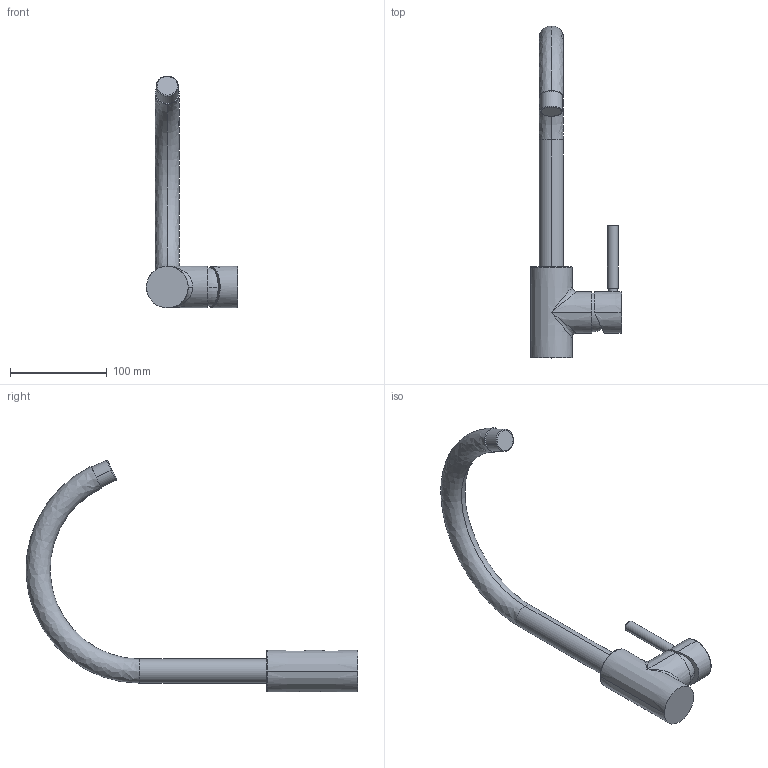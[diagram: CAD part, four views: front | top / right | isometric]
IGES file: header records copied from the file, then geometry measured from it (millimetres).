
Start section:  PTC IGES file: 7780-3D.igs
Global section: file name: 7780-3D.igs; native system: Creo Parametric by Parametric Technology Corporation; preprocessor: 2012130; author: Adriano; organization: Unknown; date: 20161129.204619; units: millimetre
Bounding box: 94 x 342.34 x 239.14 mm (x, y, z)
Volume: 431369.1 mm3; surface area: 59615.5 mm2
Topology: 1 solids, 1 shells, 40 faces, 81 edges, 48 vertices
Faces by surface type: revolution 26, bspline 14
